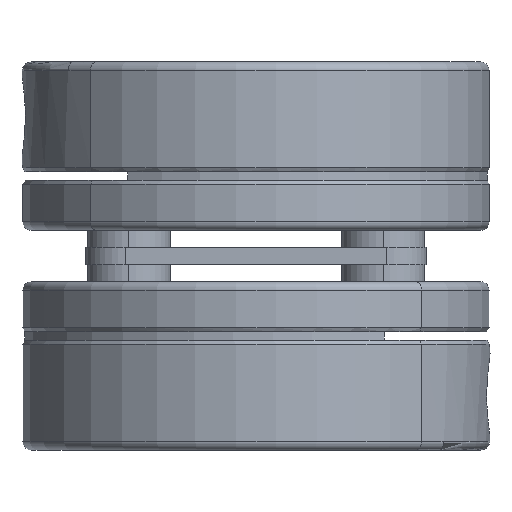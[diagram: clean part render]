
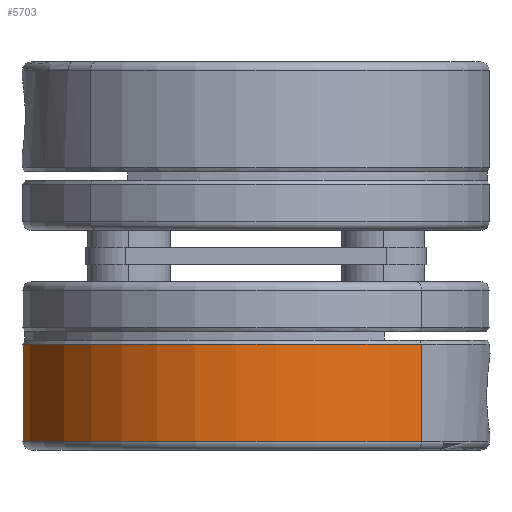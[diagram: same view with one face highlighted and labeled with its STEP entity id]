
A CAD part, left-side view. The second image highlights one B-rep face of the part: STEP entity #5703.
In plain terms, the highlighted cylindrical face has radius 41 mm (diameter 82 mm), a partial arc.
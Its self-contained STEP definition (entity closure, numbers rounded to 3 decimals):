
#212 = CARTESIAN_POINT ( 'NONE',  ( 0., 10.943, 0. ) ) ;
#648 = CARTESIAN_POINT ( 'NONE',  ( 0., 0., 0. ) ) ;
#986 = CARTESIAN_POINT ( 'NONE',  ( 0., 0., 41. ) ) ;
#994 = CARTESIAN_POINT ( 'NONE',  ( 0., 28., 41. ) ) ;
#1136 = VERTEX_POINT ( 'NONE', #4950 ) ;
#1305 = DIRECTION ( 'NONE',  ( 0., -1., 0. ) ) ;
#1349 = VECTOR ( 'NONE', #2997, 1000. ) ;
#1517 = EDGE_CURVE ( 'NONE', #7678, #1136, #6601, .T. ) ;
#1892 = EDGE_CURVE ( 'NONE', #4241, #1136, #2297, .T. ) ;
#2076 = DIRECTION ( 'NONE',  ( 0., 0., -1. ) ) ;
#2083 = EDGE_CURVE ( 'NONE', #3559, #4241, #6609, .T. ) ;
#2297 = CIRCLE ( 'NONE', #6820, 41. ) ;
#2601 = DIRECTION ( 'NONE',  ( 0., -1., 0. ) ) ;
#2997 = DIRECTION ( 'NONE',  ( 0., -1., 0. ) ) ;
#3123 = DIRECTION ( 'NONE',  ( 0., 0., -1. ) ) ;
#3534 = DIRECTION ( 'NONE',  ( 0., -1., 0. ) ) ;
#3559 = VERTEX_POINT ( 'NONE', #994 ) ;
#3701 = AXIS2_PLACEMENT_3D ( 'NONE', #7608, #1305, #3725 ) ;
#3725 = DIRECTION ( 'NONE',  ( 0., 0., -1. ) ) ;
#3764 = FACE_OUTER_BOUND ( 'NONE', #4247, .T. ) ;
#4105 = AXIS2_PLACEMENT_3D ( 'NONE', #648, #7449, #3123 ) ;
#4241 = VERTEX_POINT ( 'NONE', #6572 ) ;
#4247 = EDGE_LOOP ( 'NONE', ( #6703, #5856, #4608, #6671 ) ) ;
#4608 = ORIENTED_EDGE ( 'NONE', *, *, #1517, .T. ) ;
#4950 = CARTESIAN_POINT ( 'NONE',  ( 0., 10.943, -41. ) ) ;
#5690 = EDGE_CURVE ( 'NONE', #3559, #7678, #6946, .T. ) ;
#5703 = ADVANCED_FACE ( 'NONE', ( #3764 ), #5710, .T. ) ;
#5710 = CYLINDRICAL_SURFACE ( 'NONE', #4105, 41. ) ;
#5856 = ORIENTED_EDGE ( 'NONE', *, *, #5690, .T. ) ;
#5922 = CARTESIAN_POINT ( 'NONE',  ( 0., 0., -41. ) ) ;
#6368 = CARTESIAN_POINT ( 'NONE',  ( 0., 28., -41. ) ) ;
#6572 = CARTESIAN_POINT ( 'NONE',  ( 0., 10.943, 41. ) ) ;
#6601 = LINE ( 'NONE', #5922, #1349 ) ;
#6609 = LINE ( 'NONE', #986, #6951 ) ;
#6671 = ORIENTED_EDGE ( 'NONE', *, *, #1892, .F. ) ;
#6703 = ORIENTED_EDGE ( 'NONE', *, *, #2083, .F. ) ;
#6820 = AXIS2_PLACEMENT_3D ( 'NONE', #212, #2601, #2076 ) ;
#6946 = CIRCLE ( 'NONE', #3701, 41. ) ;
#6951 = VECTOR ( 'NONE', #3534, 1000. ) ;
#7449 = DIRECTION ( 'NONE',  ( 0., -1., 0. ) ) ;
#7608 = CARTESIAN_POINT ( 'NONE',  ( 0., 28., 0. ) ) ;
#7678 = VERTEX_POINT ( 'NONE', #6368 ) ;
